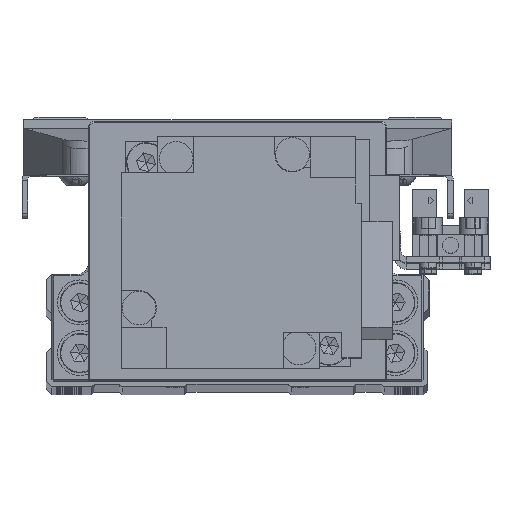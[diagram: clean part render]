
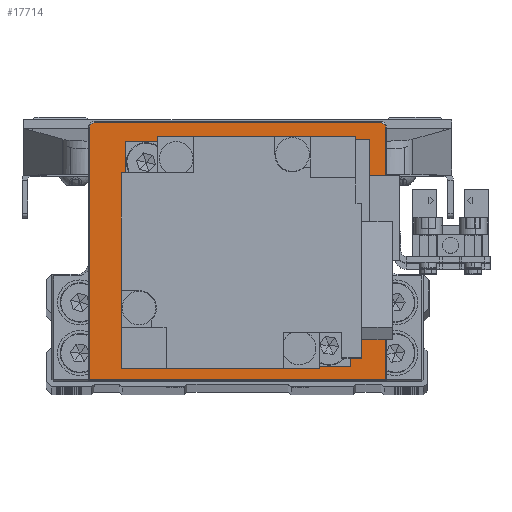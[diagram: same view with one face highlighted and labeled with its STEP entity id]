
A CAD part, top view. The second image highlights one B-rep face of the part: STEP entity #17714.
In plain terms, the highlighted planar face has unit normal (0, 0, 1) as drawn and (0, -1, 0) by its records, which use the part's own axes.
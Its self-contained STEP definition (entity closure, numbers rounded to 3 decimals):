
#1249 = CARTESIAN_POINT ( 'NONE',  ( 25.5, -4., 22. ) ) ;
#2184 = VERTEX_POINT ( 'NONE', #25645 ) ;
#2264 = EDGE_CURVE ( 'NONE', #2184, #16410, #10346, .T. ) ;
#2445 = VECTOR ( 'NONE', #32365, 1000. ) ;
#3414 = FACE_OUTER_BOUND ( 'NONE', #10208, .T. ) ;
#4355 = ORIENTED_EDGE ( 'NONE', *, *, #25516, .T. ) ;
#5089 = CARTESIAN_POINT ( 'NONE',  ( 26.3, -4., -22.8 ) ) ;
#5499 = VECTOR ( 'NONE', #35566, 1000. ) ;
#5503 = CARTESIAN_POINT ( 'NONE',  ( 25.5, -4., 22.8 ) ) ;
#7150 = LINE ( 'NONE', #19759, #2445 ) ;
#7637 = DIRECTION ( 'NONE',  ( 0., 0., -1. ) ) ;
#9828 = DIRECTION ( 'NONE',  ( 0., -1., 0. ) ) ;
#10208 = EDGE_LOOP ( 'NONE', ( #39720, #22920, #36759, #32020, #25414, #4355 ) ) ;
#10346 = LINE ( 'NONE', #22945, #5499 ) ;
#11615 = EDGE_CURVE ( 'NONE', #37536, #17546, #33401, .T. ) ;
#12417 = LINE ( 'NONE', #25014, #15573 ) ;
#12956 = LINE ( 'NONE', #25550, #39275 ) ;
#13904 = DIRECTION ( 'NONE',  ( 0., -1., 0. ) ) ;
#15573 = VECTOR ( 'NONE', #37633, 1000. ) ;
#15588 = AXIS2_PLACEMENT_3D ( 'NONE', #1249, #13904, #26498 ) ;
#15943 = VERTEX_POINT ( 'NONE', #26242 ) ;
#16410 = VERTEX_POINT ( 'NONE', #5089 ) ;
#16558 = CIRCLE ( 'NONE', #39652, 0.8 ) ;
#17546 = VERTEX_POINT ( 'NONE', #5503 ) ;
#17714 = ADVANCED_FACE ( 'NONE', ( #3414 ), #25535, .T. ) ;
#18111 = CARTESIAN_POINT ( 'NONE',  ( 26.3, -4., 22. ) ) ;
#19759 = CARTESIAN_POINT ( 'NONE',  ( -25.5, -4., 22.8 ) ) ;
#22438 = DIRECTION ( 'NONE',  ( 0., 0., -1. ) ) ;
#22920 = ORIENTED_EDGE ( 'NONE', *, *, #33175, .T. ) ;
#22945 = CARTESIAN_POINT ( 'NONE',  ( 26.5, -4., -22.8 ) ) ;
#22949 = EDGE_CURVE ( 'NONE', #17546, #32033, #7150, .T. ) ;
#23335 = CARTESIAN_POINT ( 'NONE',  ( -25.5, -4., 22. ) ) ;
#24711 = CARTESIAN_POINT ( 'NONE',  ( -25.5, -4., 22.8 ) ) ;
#25014 = CARTESIAN_POINT ( 'NONE',  ( 26.3, -4., 22. ) ) ;
#25414 = ORIENTED_EDGE ( 'NONE', *, *, #28055, .T. ) ;
#25516 = EDGE_CURVE ( 'NONE', #15943, #2184, #12956, .T. ) ;
#25535 = PLANE ( 'NONE',  #26663 ) ;
#25550 = CARTESIAN_POINT ( 'NONE',  ( -26.3, -4., -23. ) ) ;
#25645 = CARTESIAN_POINT ( 'NONE',  ( -26.3, -4., -22.8 ) ) ;
#26242 = CARTESIAN_POINT ( 'NONE',  ( -26.3, -4., 22. ) ) ;
#26498 = DIRECTION ( 'NONE',  ( 0., 0., -1. ) ) ;
#26663 = AXIS2_PLACEMENT_3D ( 'NONE', #38144, #9828, #22438 ) ;
#28055 = EDGE_CURVE ( 'NONE', #32033, #15943, #16558, .T. ) ;
#32020 = ORIENTED_EDGE ( 'NONE', *, *, #22949, .T. ) ;
#32033 = VERTEX_POINT ( 'NONE', #24711 ) ;
#32365 = DIRECTION ( 'NONE',  ( -1., 0., 0. ) ) ;
#33175 = EDGE_CURVE ( 'NONE', #16410, #37536, #12417, .T. ) ;
#33401 = CIRCLE ( 'NONE', #15588, 0.8 ) ;
#35566 = DIRECTION ( 'NONE',  ( 1., 0., 0. ) ) ;
#35948 = DIRECTION ( 'NONE',  ( 0., -1., 0. ) ) ;
#36759 = ORIENTED_EDGE ( 'NONE', *, *, #11615, .T. ) ;
#37536 = VERTEX_POINT ( 'NONE', #18111 ) ;
#37633 = DIRECTION ( 'NONE',  ( 0., 0., 1. ) ) ;
#38144 = CARTESIAN_POINT ( 'NONE',  ( 0., -4., 0. ) ) ;
#38162 = DIRECTION ( 'NONE',  ( 0., 0., -1. ) ) ;
#39275 = VECTOR ( 'NONE', #38162, 1000. ) ;
#39652 = AXIS2_PLACEMENT_3D ( 'NONE', #23335, #35948, #7637 ) ;
#39720 = ORIENTED_EDGE ( 'NONE', *, *, #2264, .T. ) ;
